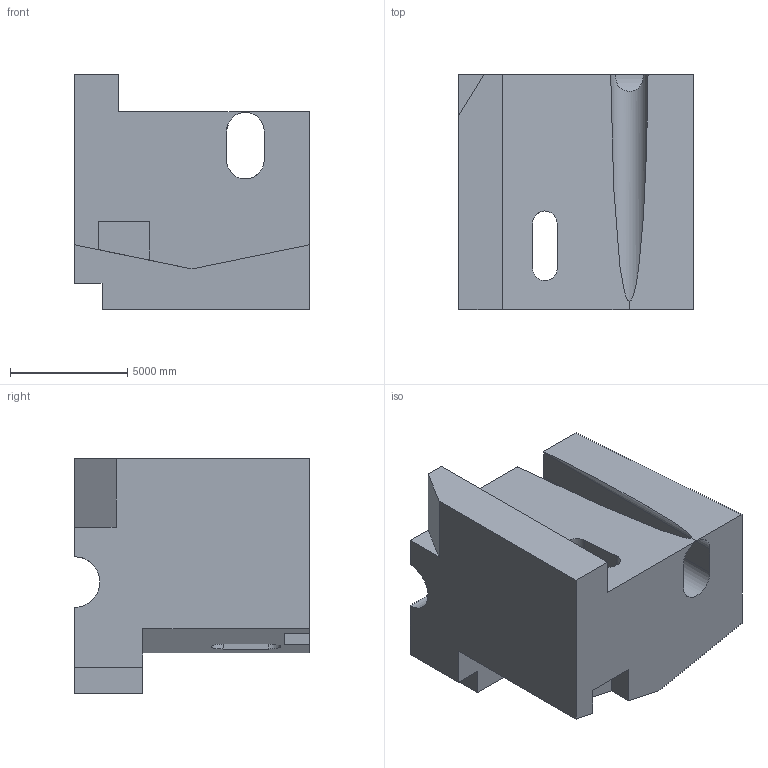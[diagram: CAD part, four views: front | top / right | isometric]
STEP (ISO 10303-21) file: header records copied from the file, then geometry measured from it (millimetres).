
FILE_DESCRIPTION (( 'STEP AP203' ), '1' );
FILE_NAME ('797.STEP', '2022-07-29T13:16:48', ( 'user' ), ( '' ), 'SwSTEP 2.0', 'SolidWorks 2021', '' );
FILE_SCHEMA (( 'CONFIG_CONTROL_DESIGN' ));
Length unit declared in the file: centimetre
Products named in the file (1): 797
Bounding box: 10000 x 10000 x 10000 mm (x, y, z)
Volume: 600250045773.9 mm3; surface area: 616594680 mm2
Topology: 1 solids, 1 shells, 31 faces, 90 edges, 60 vertices
Faces by surface type: plane 25, cylinder 6
Entity records: 1223 total; most frequent: CARTESIAN_POINT 327, ORIENTED_EDGE 180, DIRECTION 156, EDGE_CURVE 90, VECTOR 74, LINE 74, VERTEX_POINT 60, AXIS2_PLACEMENT_3D 41
